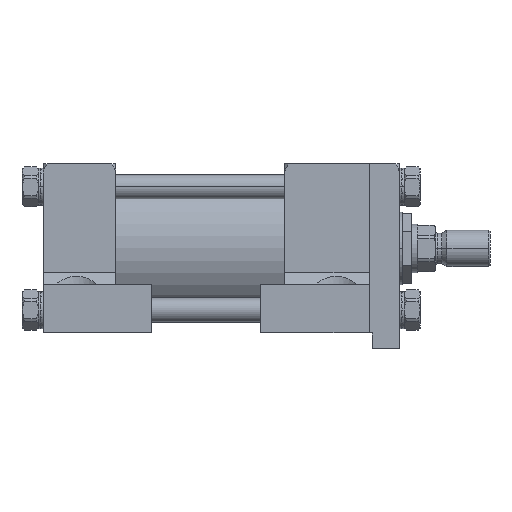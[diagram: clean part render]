
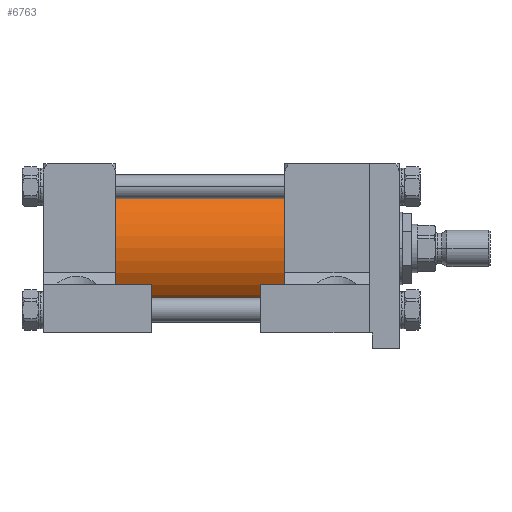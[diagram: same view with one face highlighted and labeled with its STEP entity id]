
A CAD part, front view. The second image highlights one B-rep face of the part: STEP entity #6763.
In plain terms, the highlighted cylindrical face has radius 38.1 mm (diameter 76.2 mm), a partial arc.
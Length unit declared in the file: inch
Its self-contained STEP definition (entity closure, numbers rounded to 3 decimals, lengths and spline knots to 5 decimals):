
#2587 = ORIENTED_EDGE ( 'NONE', *, *, #45023, .F. ) ;
#2791 = DIRECTION ( 'NONE',  ( 1., 0., 0. ) ) ;
#3288 = EDGE_LOOP ( 'NONE', ( #13629, #55168, #13808, #2587 ) ) ;
#4369 = VERTEX_POINT ( 'NONE', #19696 ) ;
#5042 = DIRECTION ( 'NONE',  ( 1., 0., 0. ) ) ;
#5234 = CIRCLE ( 'NONE', #36471, 1.5 ) ;
#5508 = FACE_OUTER_BOUND ( 'NONE', #3288, .T. ) ;
#6669 = CARTESIAN_POINT ( 'NONE',  ( -6.875, 0., -1.5 ) ) ;
#6763 = ADVANCED_FACE ( 'NONE', ( #5508 ), #24386, .T. ) ;
#8638 = AXIS2_PLACEMENT_3D ( 'NONE', #48311, #5042, #38515 ) ;
#9897 = DIRECTION ( 'NONE',  ( 0., 0., -1. ) ) ;
#12904 = CARTESIAN_POINT ( 'NONE',  ( -6.875, 0., 0. ) ) ;
#13629 = ORIENTED_EDGE ( 'NONE', *, *, #62213, .F. ) ;
#13808 = ORIENTED_EDGE ( 'NONE', *, *, #20787, .T. ) ;
#16491 = CARTESIAN_POINT ( 'NONE',  ( -6.875, 0., 1.5 ) ) ;
#17801 = VERTEX_POINT ( 'NONE', #6669 ) ;
#19696 = CARTESIAN_POINT ( 'NONE',  ( -2.875, 0., -1.5 ) ) ;
#20787 = EDGE_CURVE ( 'NONE', #17801, #4369, #27690, .T. ) ;
#21069 = VECTOR ( 'NONE', #45646, 39.37008 ) ;
#23663 = CIRCLE ( 'NONE', #8638, 1.5 ) ;
#24386 = CYLINDRICAL_SURFACE ( 'NONE', #39848, 1.5 ) ;
#26859 = LINE ( 'NONE', #16491, #21069 ) ;
#27690 = LINE ( 'NONE', #47073, #57962 ) ;
#31740 = VERTEX_POINT ( 'NONE', #36419 ) ;
#34262 = CARTESIAN_POINT ( 'NONE',  ( -2.875, 0., 1.5 ) ) ;
#35665 = DIRECTION ( 'NONE',  ( 1., 0., 0. ) ) ;
#35683 = EDGE_CURVE ( 'NONE', #31740, #17801, #5234, .T. ) ;
#36419 = CARTESIAN_POINT ( 'NONE',  ( -6.875, 0., 1.5 ) ) ;
#36471 = AXIS2_PLACEMENT_3D ( 'NONE', #12904, #35665, #54985 ) ;
#38515 = DIRECTION ( 'NONE',  ( 0., 1., 0. ) ) ;
#39848 = AXIS2_PLACEMENT_3D ( 'NONE', #57950, #44361, #9897 ) ;
#44361 = DIRECTION ( 'NONE',  ( 1., 0., 0. ) ) ;
#45023 = EDGE_CURVE ( 'NONE', #46915, #4369, #23663, .T. ) ;
#45646 = DIRECTION ( 'NONE',  ( 1., 0., 0. ) ) ;
#46915 = VERTEX_POINT ( 'NONE', #34262 ) ;
#47073 = CARTESIAN_POINT ( 'NONE',  ( -6.875, 0., -1.5 ) ) ;
#48311 = CARTESIAN_POINT ( 'NONE',  ( -2.875, 0., 0. ) ) ;
#54985 = DIRECTION ( 'NONE',  ( 0., 1., 0. ) ) ;
#55168 = ORIENTED_EDGE ( 'NONE', *, *, #35683, .T. ) ;
#57950 = CARTESIAN_POINT ( 'NONE',  ( -6.875, 0., 0. ) ) ;
#57962 = VECTOR ( 'NONE', #2791, 39.37008 ) ;
#62213 = EDGE_CURVE ( 'NONE', #31740, #46915, #26859, .T. ) ;
